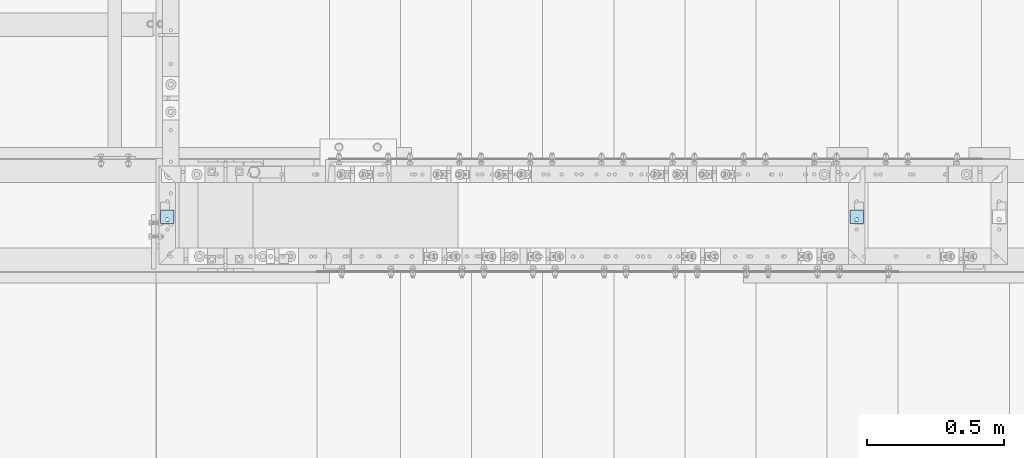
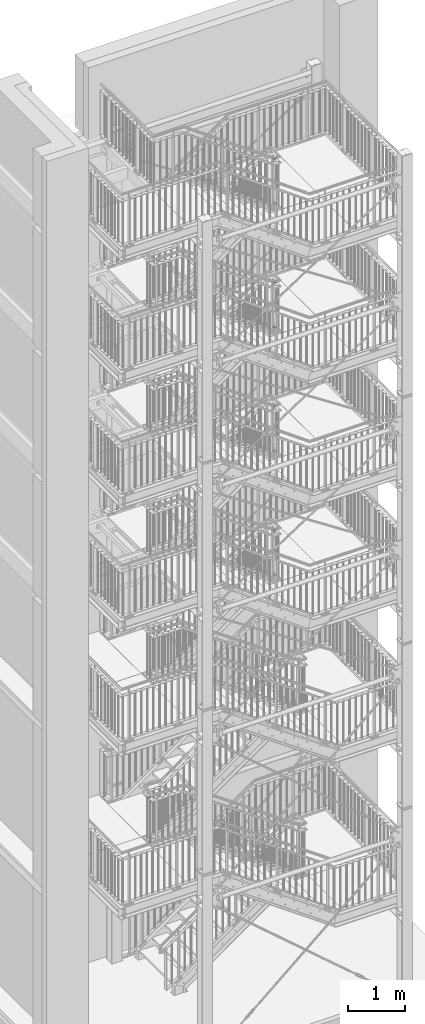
# One storey, part 227 of 831: 10 plates, 10 openings.
"""IFC2X3 building model written with IfcOpenShell, lengths in millimetres."""

from ifc_helpers import new_model, entity, si_unit, converted_unit, point, frame, frame_2d, origin, origin_with_axes, place, context, project, spatial, polyline, circle_curve, line_curve, trimmed, segment, composite_curve, outline, extrude, material, layer, layer_set, element, save


model = new_model("IFC2X3")

# Units and contexts
model_context = context("Model", 3, precision=1e-09, world=origin_with_axes())
ifc_project = project(units=[si_unit("LENGTHUNIT", "METRE", prefix="MILLI"), si_unit("AREAUNIT", "SQUARE_METRE"), si_unit("VOLUMEUNIT", "CUBIC_METRE"), converted_unit("PLANEANGLEUNIT", "DEGREE", entity("IfcPlaneAngleMeasure", 0.01745329), si_unit("PLANEANGLEUNIT", "RADIAN"), dimensions=[0, 0, 0, 0, 0, 0, 0])], contexts=[model_context])

# Site, building, storey
site_placement = place(None, origin_with_axes())
site = spatial("IfcSite", under=ifc_project, at=site_placement, Name="Site", CompositionType="ELEMENT")
building_placement = place(site_placement, origin_with_axes())
building = spatial("IfcBuilding", under=site, at=building_placement, Name="Struktur 1", CompositionType="ELEMENT")
storey_placement = place(building_placement, origin_with_axes())
storey = spatial("IfcBuildingStorey", under=building, at=storey_placement, Name="Default Storey", CompositionType="ELEMENT", Elevation=0.0)

# Plate, opening
ifc_material = material(Name="S235JR")
ifc_layer = layer(ifc_material, 6.0)
ifc_layer_set = layer_set([ifc_layer], Name="S235JR")
plate_1_placement = place(None, frame((7164.822212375, 5936.736971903, 8690.0), z_axis=(0.0, 0.0, -1.0), x_axis=(0.0, -1.0, 0.0)))
plate_1 = element("IfcPlate", 1, at=plate_1_placement, inside=storey, material=ifc_layer_set, Name="-", ObjectType="-", context=model_context, shape_type="SweptSolid", body=[
    extrude(outline(polyline([(-25.0, -25.0), (25.0, -25.0), (25.0, 25.0), (-25.0, 25.0), (-25.0, -25.0)])), origin_with_axes(), (0.0, 0.0, -1.0), 6.0),
])
opening_1_placement = place(plate_1_placement, frame((7.499999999, -5.001, 0.5), z_axis=(0.0, 0.0, 1.0), x_axis=(1.0, 0.0, 0.0)))
element("IfcOpeningElement", 2, at=opening_1_placement, cuts=plate_1, ObjectType="Opening", context=model_context, shape_type="SweptSolid", body=[
    extrude(outline(composite_curve([segment(trimmed(line_curve((0.0, 0.0), (1.0, 0.0), 5.0), [point((0.0, 0.0))], [point((5.0, 0.0))], True, "CARTESIAN"), True, "CONTINUOUS"), segment(trimmed(circle_curve(frame_2d((5.0, 5.001), x_axis=(1.0, 0.0)), 5.001), [point((5.0, 0.0))], [point((5.0, 10.002))], True, "CARTESIAN"), True, "CONTINUOUS"), segment(trimmed(line_curve((5.0, 10.002), (-1.0, 0.0), 5.0), [point((5.0, 10.002))], [point((0.0, 10.002))], True, "CARTESIAN"), True, "CONTINUOUS"), segment(trimmed(circle_curve(frame_2d((0.0, 5.001), x_axis=(1.0, 0.0)), 5.001), [point((0.0, 10.002))], [point((0.0, 0.0))], True, "CARTESIAN"), True, "CONTINUOUS")], self_intersect=False)), origin(), (0.0, 0.0, -1.0), 7.0),
])

plate_2_placement = place(None, frame((7164.822212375, 5936.736971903, 9638.8), z_axis=(0.0, 0.0, -1.0), x_axis=(0.0, -1.0, 0.0)))
plate_2 = element("IfcPlate", 3, at=plate_2_placement, inside=storey, material=ifc_layer_set, Name="-", ObjectType="-", context=model_context, shape_type="SweptSolid", body=[
    extrude(outline(polyline([(-25.0, -25.0), (25.0, -25.0), (25.0, 25.0), (-25.0, 25.0), (-25.0, -25.0)])), origin_with_axes(), (0.0, 0.0, -1.0), 6.0),
])
opening_2_placement = place(plate_2_placement, frame((7.499999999, -5.001, 0.5), z_axis=(0.0, 0.0, 1.0), x_axis=(1.0, 0.0, 0.0)))
element("IfcOpeningElement", 4, at=opening_2_placement, cuts=plate_2, ObjectType="Opening", context=model_context, shape_type="SweptSolid", body=[
    extrude(outline(composite_curve([segment(trimmed(line_curve((0.0, 0.0), (1.0, 0.0), 5.0), [point((0.0, 0.0))], [point((5.0, 0.0))], True, "CARTESIAN"), True, "CONTINUOUS"), segment(trimmed(circle_curve(frame_2d((5.0, 5.001), x_axis=(1.0, 0.0)), 5.001), [point((5.0, 0.0))], [point((5.0, 10.002))], True, "CARTESIAN"), True, "CONTINUOUS"), segment(trimmed(line_curve((5.0, 10.002), (-1.0, 0.0), 5.0), [point((5.0, 10.002))], [point((0.0, 10.002))], True, "CARTESIAN"), True, "CONTINUOUS"), segment(trimmed(circle_curve(frame_2d((0.0, 5.001), x_axis=(1.0, 0.0)), 5.001), [point((0.0, 10.002))], [point((0.0, 0.0))], True, "CARTESIAN"), True, "CONTINUOUS")], self_intersect=False)), origin(), (0.0, 0.0, -1.0), 7.0),
])

plate_3_placement = place(None, frame((7164.822212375, 5936.736971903, 11319.5000003), z_axis=(0.0, 0.0, -1.0), x_axis=(0.0, -1.0, 0.0)))
plate_3 = element("IfcPlate", 5, at=plate_3_placement, inside=storey, material=ifc_layer_set, Name="-", ObjectType="-", context=model_context, shape_type="SweptSolid", body=[
    extrude(outline(polyline([(-25.0, -25.0), (25.0, -25.0), (25.0, 25.0), (-25.0, 25.0), (-25.0, -25.0)])), origin_with_axes(), (0.0, 0.0, -1.0), 6.0),
])
opening_3_placement = place(plate_3_placement, frame((7.499999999, -5.001, 0.5), z_axis=(0.0, 0.0, 1.0), x_axis=(1.0, 0.0, 0.0)))
element("IfcOpeningElement", 6, at=opening_3_placement, cuts=plate_3, ObjectType="Opening", context=model_context, shape_type="SweptSolid", body=[
    extrude(outline(composite_curve([segment(trimmed(line_curve((0.0, 0.0), (1.0, 0.0), 5.0), [point((0.0, 0.0))], [point((5.0, 0.0))], True, "CARTESIAN"), True, "CONTINUOUS"), segment(trimmed(circle_curve(frame_2d((5.0, 5.001), x_axis=(1.0, 0.0)), 5.001), [point((5.0, 0.0))], [point((5.0, 10.002))], True, "CARTESIAN"), True, "CONTINUOUS"), segment(trimmed(line_curve((5.0, 10.002), (-1.0, 0.0), 5.0), [point((5.0, 10.002))], [point((0.0, 10.002))], True, "CARTESIAN"), True, "CONTINUOUS"), segment(trimmed(circle_curve(frame_2d((0.0, 5.001), x_axis=(1.0, 0.0)), 5.001), [point((0.0, 10.002))], [point((0.0, 0.0))], True, "CARTESIAN"), True, "CONTINUOUS")], self_intersect=False)), origin(), (0.0, 0.0, -1.0), 7.0),
])

plate_4_placement = place(None, frame((7164.822212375, 5936.736971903, 12268.3000003), z_axis=(0.0, 0.0, -1.0), x_axis=(0.0, -1.0, 0.0)))
plate_4 = element("IfcPlate", 7, at=plate_4_placement, inside=storey, material=ifc_layer_set, Name="-", ObjectType="-", context=model_context, shape_type="SweptSolid", body=[
    extrude(outline(polyline([(-25.0, -25.0), (25.0, -25.0), (25.0, 25.0), (-25.0, 25.0), (-25.0, -25.0)])), origin_with_axes(), (0.0, 0.0, -1.0), 6.0),
])
opening_4_placement = place(plate_4_placement, frame((7.499999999, -5.001, 0.5), z_axis=(0.0, 0.0, 1.0), x_axis=(1.0, 0.0, 0.0)))
element("IfcOpeningElement", 8, at=opening_4_placement, cuts=plate_4, ObjectType="Opening", context=model_context, shape_type="SweptSolid", body=[
    extrude(outline(composite_curve([segment(trimmed(line_curve((0.0, 0.0), (1.0, 0.0), 5.0), [point((0.0, 0.0))], [point((5.0, 0.0))], True, "CARTESIAN"), True, "CONTINUOUS"), segment(trimmed(circle_curve(frame_2d((5.0, 5.001), x_axis=(1.0, 0.0)), 5.001), [point((5.0, 0.0))], [point((5.0, 10.002))], True, "CARTESIAN"), True, "CONTINUOUS"), segment(trimmed(line_curve((5.0, 10.002), (-1.0, 0.0), 5.0), [point((5.0, 10.002))], [point((0.0, 10.002))], True, "CARTESIAN"), True, "CONTINUOUS"), segment(trimmed(circle_curve(frame_2d((0.0, 5.001), x_axis=(1.0, 0.0)), 5.001), [point((0.0, 10.002))], [point((0.0, 0.0))], True, "CARTESIAN"), True, "CONTINUOUS")], self_intersect=False)), origin(), (0.0, 0.0, -1.0), 7.0),
])

plate_5_placement = place(None, frame((7164.822212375, 5936.736971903, 13950.5000001), z_axis=(0.0, 0.0, -1.0), x_axis=(0.0, -1.0, 0.0)))
plate_5 = element("IfcPlate", 9, at=plate_5_placement, inside=storey, material=ifc_layer_set, Name="-", ObjectType="-", context=model_context, shape_type="SweptSolid", body=[
    extrude(outline(polyline([(-25.0, -25.0), (25.0, -25.0), (25.0, 25.0), (-25.0, 25.0), (-25.0, -25.0)])), origin_with_axes(), (0.0, 0.0, -1.0), 6.0),
])
opening_5_placement = place(plate_5_placement, frame((7.499999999, -5.001, 0.5), z_axis=(0.0, 0.0, 1.0), x_axis=(1.0, 0.0, 0.0)))
element("IfcOpeningElement", 10, at=opening_5_placement, cuts=plate_5, ObjectType="Opening", context=model_context, shape_type="SweptSolid", body=[
    extrude(outline(composite_curve([segment(trimmed(line_curve((0.0, 0.0), (1.0, 0.0), 5.0), [point((0.0, 0.0))], [point((5.0, 0.0))], True, "CARTESIAN"), True, "CONTINUOUS"), segment(trimmed(circle_curve(frame_2d((5.0, 5.001), x_axis=(1.0, 0.0)), 5.001), [point((5.0, 0.0))], [point((5.0, 10.002))], True, "CARTESIAN"), True, "CONTINUOUS"), segment(trimmed(line_curve((5.0, 10.002), (-1.0, 0.0), 5.0), [point((5.0, 10.002))], [point((0.0, 10.002))], True, "CARTESIAN"), True, "CONTINUOUS"), segment(trimmed(circle_curve(frame_2d((0.0, 5.001), x_axis=(1.0, 0.0)), 5.001), [point((0.0, 10.002))], [point((0.0, 0.0))], True, "CARTESIAN"), True, "CONTINUOUS")], self_intersect=False)), origin(), (0.0, 0.0, -1.0), 7.0),
])

plate_6_placement = place(None, frame((7164.822212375, 5936.736971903, 14899.3000001), z_axis=(0.0, 0.0, -1.0), x_axis=(0.0, -1.0, 0.0)))
plate_6 = element("IfcPlate", 11, at=plate_6_placement, inside=storey, material=ifc_layer_set, Name="-", ObjectType="-", context=model_context, shape_type="SweptSolid", body=[
    extrude(outline(polyline([(-25.0, -25.0), (25.0, -25.0), (25.0, 25.0), (-25.0, 25.0), (-25.0, -25.0)])), origin_with_axes(), (0.0, 0.0, -1.0), 6.0),
])
opening_6_placement = place(plate_6_placement, frame((7.499999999, -5.001, 0.5), z_axis=(0.0, 0.0, 1.0), x_axis=(1.0, 0.0, 0.0)))
element("IfcOpeningElement", 12, at=opening_6_placement, cuts=plate_6, ObjectType="Opening", context=model_context, shape_type="SweptSolid", body=[
    extrude(outline(composite_curve([segment(trimmed(line_curve((0.0, 0.0), (1.0, 0.0), 5.0), [point((0.0, 0.0))], [point((5.0, 0.0))], True, "CARTESIAN"), True, "CONTINUOUS"), segment(trimmed(circle_curve(frame_2d((5.0, 5.001), x_axis=(1.0, 0.0)), 5.001), [point((5.0, 0.0))], [point((5.0, 10.002))], True, "CARTESIAN"), True, "CONTINUOUS"), segment(trimmed(line_curve((5.0, 10.002), (-1.0, 0.0), 5.0), [point((5.0, 10.002))], [point((0.0, 10.002))], True, "CARTESIAN"), True, "CONTINUOUS"), segment(trimmed(circle_curve(frame_2d((0.0, 5.001), x_axis=(1.0, 0.0)), 5.001), [point((0.0, 10.002))], [point((0.0, 0.0))], True, "CARTESIAN"), True, "CONTINUOUS")], self_intersect=False)), origin(), (0.0, 0.0, -1.0), 7.0),
])

plate_7_placement = place(None, frame((7164.822212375, 5936.736971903, 16578.0000003), z_axis=(0.0, 0.0, -1.0), x_axis=(0.0, -1.0, 0.0)))
plate_7 = element("IfcPlate", 13, at=plate_7_placement, inside=storey, material=ifc_layer_set, Name="-", ObjectType="-", context=model_context, shape_type="SweptSolid", body=[
    extrude(outline(polyline([(-25.0, -25.0), (25.0, -25.0), (25.0, 25.0), (-25.0, 25.0), (-25.0, -25.0)])), origin_with_axes(), (0.0, 0.0, -1.0), 6.0),
])
opening_7_placement = place(plate_7_placement, frame((7.499999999, -5.001, 0.5), z_axis=(0.0, 0.0, 1.0), x_axis=(1.0, 0.0, 0.0)))
element("IfcOpeningElement", 14, at=opening_7_placement, cuts=plate_7, ObjectType="Opening", context=model_context, shape_type="SweptSolid", body=[
    extrude(outline(composite_curve([segment(trimmed(line_curve((0.0, 0.0), (1.0, 0.0), 5.0), [point((0.0, 0.0))], [point((5.0, 0.0))], True, "CARTESIAN"), True, "CONTINUOUS"), segment(trimmed(circle_curve(frame_2d((5.0, 5.001), x_axis=(1.0, 0.0)), 5.001), [point((5.0, 0.0))], [point((5.0, 10.002))], True, "CARTESIAN"), True, "CONTINUOUS"), segment(trimmed(line_curve((5.0, 10.002), (-1.0, 0.0), 5.0), [point((5.0, 10.002))], [point((0.0, 10.002))], True, "CARTESIAN"), True, "CONTINUOUS"), segment(trimmed(circle_curve(frame_2d((0.0, 5.001), x_axis=(1.0, 0.0)), 5.001), [point((0.0, 10.002))], [point((0.0, 0.0))], True, "CARTESIAN"), True, "CONTINUOUS")], self_intersect=False)), origin(), (0.0, 0.0, -1.0), 7.0),
])

plate_8_placement = place(None, frame((7164.822212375, 5936.736971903, 17526.8000003), z_axis=(0.0, 0.0, -1.0), x_axis=(0.0, -1.0, 0.0)))
plate_8 = element("IfcPlate", 15, at=plate_8_placement, inside=storey, material=ifc_layer_set, Name="-", ObjectType="-", context=model_context, shape_type="SweptSolid", body=[
    extrude(outline(polyline([(-25.0, -25.0), (25.0, -25.0), (25.0, 25.0), (-25.0, 25.0), (-25.0, -25.0)])), origin_with_axes(), (0.0, 0.0, -1.0), 6.0),
])
opening_8_placement = place(plate_8_placement, frame((7.499999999, -5.001, 0.5), z_axis=(0.0, 0.0, 1.0), x_axis=(1.0, 0.0, 0.0)))
element("IfcOpeningElement", 16, at=opening_8_placement, cuts=plate_8, ObjectType="Opening", context=model_context, shape_type="SweptSolid", body=[
    extrude(outline(composite_curve([segment(trimmed(line_curve((0.0, 0.0), (1.0, 0.0), 5.0), [point((0.0, 0.0))], [point((5.0, 0.0))], True, "CARTESIAN"), True, "CONTINUOUS"), segment(trimmed(circle_curve(frame_2d((5.0, 5.001), x_axis=(1.0, 0.0)), 5.001), [point((5.0, 0.0))], [point((5.0, 10.002))], True, "CARTESIAN"), True, "CONTINUOUS"), segment(trimmed(line_curve((5.0, 10.002), (-1.0, 0.0), 5.0), [point((5.0, 10.002))], [point((0.0, 10.002))], True, "CARTESIAN"), True, "CONTINUOUS"), segment(trimmed(circle_curve(frame_2d((0.0, 5.001), x_axis=(1.0, 0.0)), 5.001), [point((0.0, 10.002))], [point((0.0, 0.0))], True, "CARTESIAN"), True, "CONTINUOUS")], self_intersect=False)), origin(), (0.0, 0.0, -1.0), 7.0),
])

plate_9_placement = place(None, frame((4644.213402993, 5936.736971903, 4849.8), z_axis=(0.0, 0.0, -1.0), x_axis=(0.0, -1.0, 0.0)))
plate_9 = element("IfcPlate", 17, at=plate_9_placement, inside=storey, material=ifc_layer_set, Name="-", ObjectType="-", context=model_context, shape_type="SweptSolid", body=[
    extrude(outline(polyline([(-25.0, -25.0), (25.0, -25.0), (25.0, 25.0), (-25.0, 25.0), (-25.0, -25.0)])), origin_with_axes(), (0.0, 0.0, -1.0), 6.0),
])
opening_9_placement = place(plate_9_placement, frame((7.499999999, -5.001, 0.5), z_axis=(0.0, 0.0, 1.0), x_axis=(1.0, 0.0, 0.0)))
element("IfcOpeningElement", 18, at=opening_9_placement, cuts=plate_9, ObjectType="Opening", context=model_context, shape_type="SweptSolid", body=[
    extrude(outline(composite_curve([segment(trimmed(line_curve((0.0, 0.0), (1.0, 0.0), 5.0), [point((0.0, 0.0))], [point((5.0, 0.0))], True, "CARTESIAN"), True, "CONTINUOUS"), segment(trimmed(circle_curve(frame_2d((5.0, 5.001), x_axis=(1.0, 0.0)), 5.001), [point((5.0, 0.0))], [point((5.0, 10.002))], True, "CARTESIAN"), True, "CONTINUOUS"), segment(trimmed(line_curve((5.0, 10.002), (-1.0, 0.0), 5.0), [point((5.0, 10.002))], [point((0.0, 10.002))], True, "CARTESIAN"), True, "CONTINUOUS"), segment(trimmed(circle_curve(frame_2d((0.0, 5.001), x_axis=(1.0, 0.0)), 5.001), [point((0.0, 10.002))], [point((0.0, 0.0))], True, "CARTESIAN"), True, "CONTINUOUS")], self_intersect=False)), origin(), (0.0, 0.0, -1.0), 7.0),
])

plate_10_placement = place(None, frame((4644.213402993, 5936.736971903, 3901.0), z_axis=(0.0, 0.0, -1.0), x_axis=(0.0, -1.0, 0.0)))
plate_10 = element("IfcPlate", 19, at=plate_10_placement, inside=storey, material=ifc_layer_set, Name="-", ObjectType="-", context=model_context, shape_type="SweptSolid", body=[
    extrude(outline(polyline([(-25.0, -25.0), (25.0, -25.0), (25.0, 25.0), (-25.0, 25.0), (-25.0, -25.0)])), origin_with_axes(), (0.0, 0.0, -1.0), 6.0),
])
opening_10_placement = place(plate_10_placement, frame((7.499999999, -5.001, 0.5), z_axis=(0.0, 0.0, 1.0), x_axis=(1.0, 0.0, 0.0)))
element("IfcOpeningElement", 20, at=opening_10_placement, cuts=plate_10, ObjectType="Opening", context=model_context, shape_type="SweptSolid", body=[
    extrude(outline(composite_curve([segment(trimmed(line_curve((0.0, 0.0), (1.0, 0.0), 5.0), [point((0.0, 0.0))], [point((5.0, 0.0))], True, "CARTESIAN"), True, "CONTINUOUS"), segment(trimmed(circle_curve(frame_2d((5.0, 5.001), x_axis=(1.0, 0.0)), 5.001), [point((5.0, 0.0))], [point((5.0, 10.002))], True, "CARTESIAN"), True, "CONTINUOUS"), segment(trimmed(line_curve((5.0, 10.002), (-1.0, 0.0), 5.0), [point((5.0, 10.002))], [point((0.0, 10.002))], True, "CARTESIAN"), True, "CONTINUOUS"), segment(trimmed(circle_curve(frame_2d((0.0, 5.001), x_axis=(1.0, 0.0)), 5.001), [point((0.0, 10.002))], [point((0.0, 0.0))], True, "CARTESIAN"), True, "CONTINUOUS")], self_intersect=False)), origin(), (0.0, 0.0, -1.0), 7.0),
])

save(model, "model.ifc")
